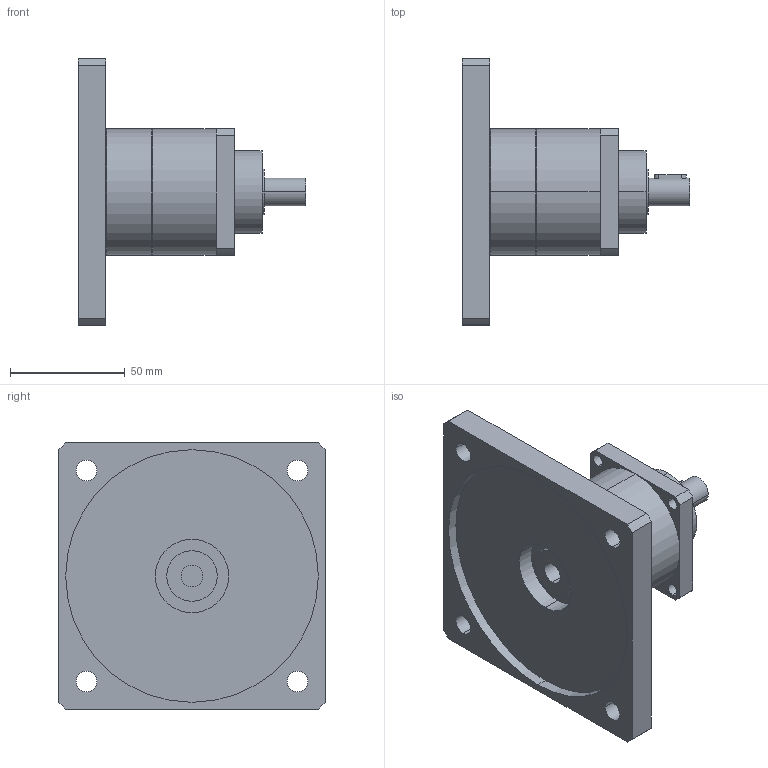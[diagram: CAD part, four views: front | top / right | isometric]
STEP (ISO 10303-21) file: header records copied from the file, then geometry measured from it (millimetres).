
FILE_DESCRIPTION(('CoCreate Modeling STEP Export'),'2;1');
FILE_NAME('GPT55_ig-3-4-5-7-10_12_B5A_9.52_P09.stp','2014-08-25T14:34:53',(''),(''),'CoCreate Modeling STEP processor for AP214 (Solid Model)','CoCreate Modeling 16.00C 25-Feb-2009 (C) Parametric Technology GmbH','');
FILE_SCHEMA(('AUTOMOTIVE_DESIGN { 1 0 10303 214 1 1 1 1 }'));
Length unit declared in the file: millimetre
Products named in the file (2): GPT55_ig-3-4-5-7-10_12_B5A_9.52_P09
Assembly tree (1 placements, depth 2):
  GPT55_ig-3-4-5-7-10_12_B5A_9.52_P09
    GPT55_ig-3-4-5-7-10_12_B5A_9.52_P09
Bounding box: 99 x 116 x 116 mm (x, y, z)
Volume: 260797.2 mm3; surface area: 50478.8 mm2
Topology: 1 solids, 1 shells, 77 faces, 204 edges, 139 vertices
Faces by surface type: cylinder 46, plane 27, cone 4
Entity records: 2515 total; most frequent: CARTESIAN_POINT 710, ORIENTED_EDGE 408, DIRECTION 318, EDGE_CURVE 204, VERTEX_POINT 139, AXIS2_PLACEMENT_3D 117, EDGE_LOOP 103, VECTOR 84
